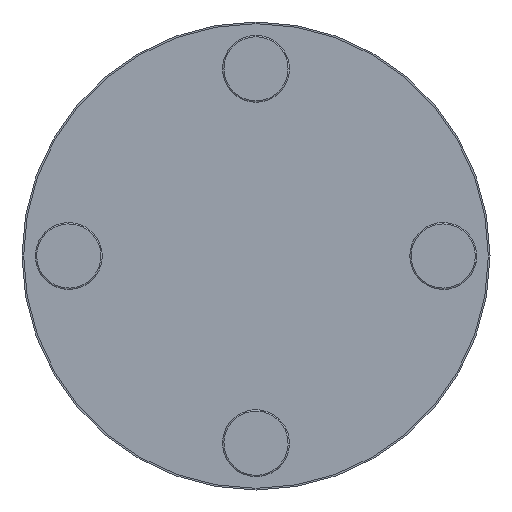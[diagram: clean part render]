
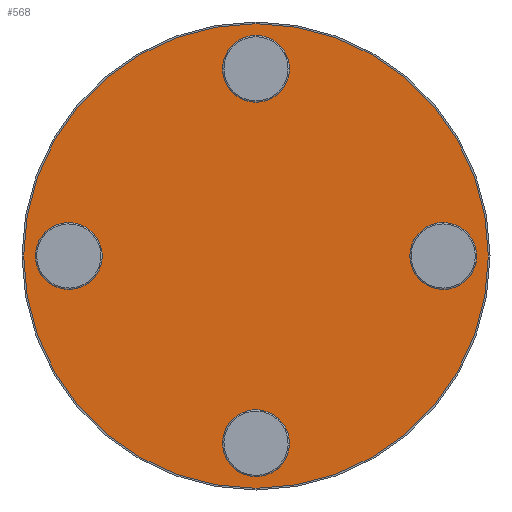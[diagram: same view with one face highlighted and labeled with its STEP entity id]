
A CAD part, front view. The second image highlights one B-rep face of the part: STEP entity #568.
In plain terms, the highlighted planar face has unit normal (0, -1, 0).
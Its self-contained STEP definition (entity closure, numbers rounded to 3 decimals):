
#7 = VERTEX_POINT ( 'NONE', #948 ) ;
#8 = AXIS2_PLACEMENT_3D ( 'NONE', #1437, #1425, #110 ) ;
#14 = DIRECTION ( 'NONE',  ( 0., 0., 1. ) ) ;
#18 = CARTESIAN_POINT ( 'NONE',  ( 0., -1.5, -28. ) ) ;
#26 = DIRECTION ( 'NONE',  ( 0., 1., 0. ) ) ;
#33 = CARTESIAN_POINT ( 'NONE',  ( 0., -1.5, 0. ) ) ;
#44 = CARTESIAN_POINT ( 'NONE',  ( 0., -1.5, -31.4 ) ) ;
#47 = DIRECTION ( 'NONE',  ( 0., 0., 1. ) ) ;
#55 = VERTEX_POINT ( 'NONE', #688 ) ;
#110 = DIRECTION ( 'NONE',  ( 0., 0., 1. ) ) ;
#129 = CARTESIAN_POINT ( 'NONE',  ( 0., -1.5, -34.75 ) ) ;
#149 = VERTEX_POINT ( 'NONE', #1811 ) ;
#153 = FACE_BOUND ( 'NONE', #1469, .T. ) ;
#157 = DIRECTION ( 'NONE',  ( 0., 1., 0. ) ) ;
#159 = EDGE_CURVE ( 'NONE', #1752, #387, #537, .T. ) ;
#188 = DIRECTION ( 'NONE',  ( 0., 1., 0. ) ) ;
#192 = ORIENTED_EDGE ( 'NONE', *, *, #715, .T. ) ;
#194 = DIRECTION ( 'NONE',  ( 0., 1., 0. ) ) ;
#258 = FACE_BOUND ( 'NONE', #1221, .T. ) ;
#277 = ORIENTED_EDGE ( 'NONE', *, *, #335, .F. ) ;
#288 = CARTESIAN_POINT ( 'NONE',  ( 0., -1.5, -28. ) ) ;
#292 = AXIS2_PLACEMENT_3D ( 'NONE', #961, #389, #1683 ) ;
#324 = AXIS2_PLACEMENT_3D ( 'NONE', #1723, #616, #327 ) ;
#327 = DIRECTION ( 'NONE',  ( 0., 0., 1. ) ) ;
#331 = CARTESIAN_POINT ( 'NONE',  ( 28., -1.5, 0. ) ) ;
#335 = EDGE_CURVE ( 'NONE', #1673, #894, #1819, .T. ) ;
#359 = CIRCLE ( 'NONE', #926, 3.4 ) ;
#387 = VERTEX_POINT ( 'NONE', #1857 ) ;
#389 = DIRECTION ( 'NONE',  ( 0., 1., 0. ) ) ;
#404 = VERTEX_POINT ( 'NONE', #44 ) ;
#413 = ORIENTED_EDGE ( 'NONE', *, *, #1158, .F. ) ;
#473 = EDGE_CURVE ( 'NONE', #7, #404, #359, .T. ) ;
#478 = CARTESIAN_POINT ( 'NONE',  ( 0., -1.5, 28. ) ) ;
#479 = DIRECTION ( 'NONE',  ( 0., 0., 1. ) ) ;
#489 = CARTESIAN_POINT ( 'NONE',  ( -28., -1.5, 3.4 ) ) ;
#533 = AXIS2_PLACEMENT_3D ( 'NONE', #1760, #194, #479 ) ;
#534 = ORIENTED_EDGE ( 'NONE', *, *, #1305, .T. ) ;
#537 = CIRCLE ( 'NONE', #1749, 3.4 ) ;
#568 = ADVANCED_FACE ( 'NONE', ( #153, #1008, #258, #864, #1291 ), #1867, .F. ) ;
#573 = EDGE_CURVE ( 'NONE', #387, #1752, #1397, .T. ) ;
#578 = AXIS2_PLACEMENT_3D ( 'NONE', #478, #26, #1204 ) ;
#616 = DIRECTION ( 'NONE',  ( 0., 1., 0. ) ) ;
#628 = CARTESIAN_POINT ( 'NONE',  ( 0., -1.5, 31.4 ) ) ;
#664 = ORIENTED_EDGE ( 'NONE', *, *, #1852, .T. ) ;
#688 = CARTESIAN_POINT ( 'NONE',  ( -28., -1.5, -3.4 ) ) ;
#715 = EDGE_CURVE ( 'NONE', #1789, #55, #1036, .T. ) ;
#770 = DIRECTION ( 'NONE',  ( 0., 1., 0. ) ) ;
#777 = AXIS2_PLACEMENT_3D ( 'NONE', #1358, #770, #905 ) ;
#785 = DIRECTION ( 'NONE',  ( 0., 0., 1. ) ) ;
#804 = CIRCLE ( 'NONE', #1112, 3.4 ) ;
#810 = VERTEX_POINT ( 'NONE', #1665 ) ;
#864 = FACE_BOUND ( 'NONE', #1341, .T. ) ;
#885 = EDGE_LOOP ( 'NONE', ( #1785, #664 ) ) ;
#887 = DIRECTION ( 'NONE',  ( 0., 0., 1. ) ) ;
#894 = VERTEX_POINT ( 'NONE', #129 ) ;
#898 = ORIENTED_EDGE ( 'NONE', *, *, #573, .T. ) ;
#905 = DIRECTION ( 'NONE',  ( 0., 0., 1. ) ) ;
#924 = DIRECTION ( 'NONE',  ( 0., 1., 0. ) ) ;
#926 = AXIS2_PLACEMENT_3D ( 'NONE', #288, #157, #887 ) ;
#948 = CARTESIAN_POINT ( 'NONE',  ( 0., -1.5, -24.6 ) ) ;
#961 = CARTESIAN_POINT ( 'NONE',  ( 0., -1.5, 0. ) ) ;
#1008 = FACE_BOUND ( 'NONE', #885, .T. ) ;
#1031 = EDGE_CURVE ( 'NONE', #55, #1789, #1408, .T. ) ;
#1036 = CIRCLE ( 'NONE', #533, 3.4 ) ;
#1052 = AXIS2_PLACEMENT_3D ( 'NONE', #18, #1450, #1312 ) ;
#1112 = AXIS2_PLACEMENT_3D ( 'NONE', #331, #188, #785 ) ;
#1116 = CIRCLE ( 'NONE', #1209, 34.75 ) ;
#1132 = ORIENTED_EDGE ( 'NONE', *, *, #1031, .T. ) ;
#1157 = CARTESIAN_POINT ( 'NONE',  ( 0., -1.5, 34.75 ) ) ;
#1158 = EDGE_CURVE ( 'NONE', #894, #1673, #1116, .T. ) ;
#1190 = DIRECTION ( 'NONE',  ( 0., 1., 0. ) ) ;
#1204 = DIRECTION ( 'NONE',  ( 0., 0., 1. ) ) ;
#1207 = CARTESIAN_POINT ( 'NONE',  ( 0., -1.5, 28. ) ) ;
#1209 = AXIS2_PLACEMENT_3D ( 'NONE', #33, #1190, #14 ) ;
#1221 = EDGE_LOOP ( 'NONE', ( #1274, #898 ) ) ;
#1274 = ORIENTED_EDGE ( 'NONE', *, *, #159, .T. ) ;
#1291 = FACE_OUTER_BOUND ( 'NONE', #1523, .T. ) ;
#1305 = EDGE_CURVE ( 'NONE', #404, #7, #1824, .T. ) ;
#1312 = DIRECTION ( 'NONE',  ( 0., 0., 1. ) ) ;
#1341 = EDGE_LOOP ( 'NONE', ( #192, #1132 ) ) ;
#1358 = CARTESIAN_POINT ( 'NONE',  ( 28., -1.5, 0. ) ) ;
#1397 = CIRCLE ( 'NONE', #578, 3.4 ) ;
#1408 = CIRCLE ( 'NONE', #8, 3.4 ) ;
#1425 = DIRECTION ( 'NONE',  ( 0., 1., 0. ) ) ;
#1434 = EDGE_CURVE ( 'NONE', #149, #810, #804, .T. ) ;
#1437 = CARTESIAN_POINT ( 'NONE',  ( -28., -1.5, 0. ) ) ;
#1450 = DIRECTION ( 'NONE',  ( 0., 1., 0. ) ) ;
#1469 = EDGE_LOOP ( 'NONE', ( #1776, #534 ) ) ;
#1523 = EDGE_LOOP ( 'NONE', ( #277, #413 ) ) ;
#1588 = CIRCLE ( 'NONE', #777, 3.4 ) ;
#1665 = CARTESIAN_POINT ( 'NONE',  ( 28., -1.5, -3.4 ) ) ;
#1673 = VERTEX_POINT ( 'NONE', #1157 ) ;
#1683 = DIRECTION ( 'NONE',  ( 0., 0., 1. ) ) ;
#1723 = CARTESIAN_POINT ( 'NONE',  ( 0., -1.5, 0. ) ) ;
#1749 = AXIS2_PLACEMENT_3D ( 'NONE', #1207, #924, #47 ) ;
#1752 = VERTEX_POINT ( 'NONE', #628 ) ;
#1760 = CARTESIAN_POINT ( 'NONE',  ( -28., -1.5, 0. ) ) ;
#1776 = ORIENTED_EDGE ( 'NONE', *, *, #473, .T. ) ;
#1785 = ORIENTED_EDGE ( 'NONE', *, *, #1434, .T. ) ;
#1789 = VERTEX_POINT ( 'NONE', #489 ) ;
#1811 = CARTESIAN_POINT ( 'NONE',  ( 28., -1.5, 3.4 ) ) ;
#1819 = CIRCLE ( 'NONE', #292, 34.75 ) ;
#1824 = CIRCLE ( 'NONE', #1052, 3.4 ) ;
#1852 = EDGE_CURVE ( 'NONE', #810, #149, #1588, .T. ) ;
#1857 = CARTESIAN_POINT ( 'NONE',  ( 0., -1.5, 24.6 ) ) ;
#1867 = PLANE ( 'NONE',  #324 ) ;
